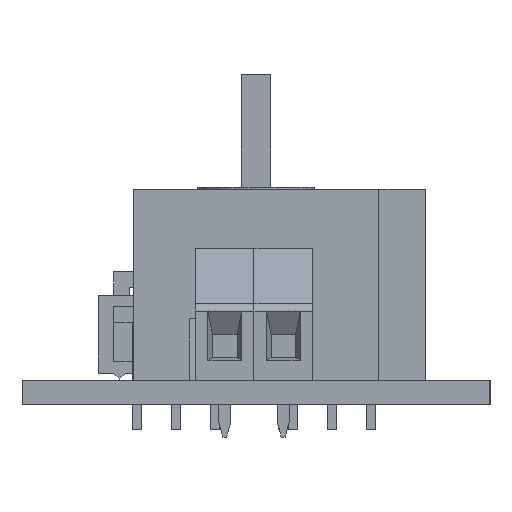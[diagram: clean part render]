
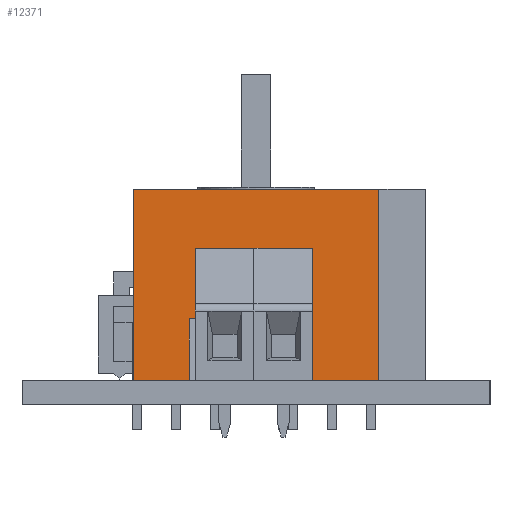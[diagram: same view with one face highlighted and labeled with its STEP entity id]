
A CAD part, left-side view. The second image highlights one B-rep face of the part: STEP entity #12371.
In plain terms, the highlighted planar face has unit normal (-1, 0, 0).
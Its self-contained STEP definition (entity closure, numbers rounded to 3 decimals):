
#12108 = EDGE_CURVE('',#12109,#12111,#12113,.T.);
#12109 = VERTEX_POINT('',#12110);
#12110 = CARTESIAN_POINT('',(-8.001,8.001,0.));
#12111 = VERTEX_POINT('',#12112);
#12112 = CARTESIAN_POINT('',(-8.001,8.001,12.446));
#12113 = SURFACE_CURVE('',#12114,(#12118,#12130),.PCURVE_S1.);
#12114 = LINE('',#12115,#12116);
#12115 = CARTESIAN_POINT('',(-8.001,8.001,0.));
#12116 = VECTOR('',#12117,1.);
#12117 = DIRECTION('',(0.,0.,1.));
#12118 = PCURVE('',#12119,#12124);
#12119 = PLANE('',#12120);
#12120 = AXIS2_PLACEMENT_3D('',#12121,#12122,#12123);
#12121 = CARTESIAN_POINT('',(-8.001,8.001,0.));
#12122 = DIRECTION('',(0.,1.,0.));
#12123 = DIRECTION('',(1.,0.,0.));
#12124 = DEFINITIONAL_REPRESENTATION('',(#12125),#12129);
#12125 = LINE('',#12126,#12127);
#12126 = CARTESIAN_POINT('',(0.,0.));
#12127 = VECTOR('',#12128,1.);
#12128 = DIRECTION('',(0.,-1.));
#12129 = ( GEOMETRIC_REPRESENTATION_CONTEXT(2) 
PARAMETRIC_REPRESENTATION_CONTEXT() REPRESENTATION_CONTEXT('2D SPACE',''
  ) );
#12130 = PCURVE('',#12131,#12136);
#12131 = PLANE('',#12132);
#12132 = AXIS2_PLACEMENT_3D('',#12133,#12134,#12135);
#12133 = CARTESIAN_POINT('',(-8.001,-8.001,0.));
#12134 = DIRECTION('',(-1.,0.,0.));
#12135 = DIRECTION('',(0.,1.,0.));
#12136 = DEFINITIONAL_REPRESENTATION('',(#12137),#12141);
#12137 = LINE('',#12138,#12139);
#12138 = CARTESIAN_POINT('',(16.002,0.));
#12139 = VECTOR('',#12140,1.);
#12140 = DIRECTION('',(0.,-1.));
#12141 = ( GEOMETRIC_REPRESENTATION_CONTEXT(2) 
PARAMETRIC_REPRESENTATION_CONTEXT() REPRESENTATION_CONTEXT('2D SPACE',''
  ) );
#12159 = PLANE('',#12160);
#12160 = AXIS2_PLACEMENT_3D('',#12161,#12162,#12163);
#12161 = CARTESIAN_POINT('',(-8.001,8.001,12.446));
#12162 = DIRECTION('',(0.,0.,1.));
#12163 = DIRECTION('',(1.,0.,0.));
#12213 = PLANE('',#12214);
#12214 = AXIS2_PLACEMENT_3D('',#12215,#12216,#12217);
#12215 = CARTESIAN_POINT('',(-8.001,8.001,0.));
#12216 = DIRECTION('',(0.,0.,1.));
#12217 = DIRECTION('',(1.,0.,0.));
#12268 = PLANE('',#12269);
#12269 = AXIS2_PLACEMENT_3D('',#12270,#12271,#12272);
#12270 = CARTESIAN_POINT('',(8.001,-8.001,0.));
#12271 = DIRECTION('',(0.,-1.,0.));
#12272 = DIRECTION('',(-1.,0.,0.));
#12306 = VERTEX_POINT('',#12307);
#12307 = CARTESIAN_POINT('',(-8.001,-8.001,12.446));
#12328 = EDGE_CURVE('',#12329,#12306,#12331,.T.);
#12329 = VERTEX_POINT('',#12330);
#12330 = CARTESIAN_POINT('',(-8.001,-8.001,0.));
#12331 = SURFACE_CURVE('',#12332,(#12336,#12343),.PCURVE_S1.);
#12332 = LINE('',#12333,#12334);
#12333 = CARTESIAN_POINT('',(-8.001,-8.001,0.));
#12334 = VECTOR('',#12335,1.);
#12335 = DIRECTION('',(0.,0.,1.));
#12336 = PCURVE('',#12268,#12337);
#12337 = DEFINITIONAL_REPRESENTATION('',(#12338),#12342);
#12338 = LINE('',#12339,#12340);
#12339 = CARTESIAN_POINT('',(16.002,0.));
#12340 = VECTOR('',#12341,1.);
#12341 = DIRECTION('',(0.,-1.));
#12342 = ( GEOMETRIC_REPRESENTATION_CONTEXT(2) 
PARAMETRIC_REPRESENTATION_CONTEXT() REPRESENTATION_CONTEXT('2D SPACE',''
  ) );
#12343 = PCURVE('',#12131,#12344);
#12344 = DEFINITIONAL_REPRESENTATION('',(#12345),#12349);
#12345 = LINE('',#12346,#12347);
#12346 = CARTESIAN_POINT('',(0.,0.));
#12347 = VECTOR('',#12348,1.);
#12348 = DIRECTION('',(0.,-1.));
#12349 = ( GEOMETRIC_REPRESENTATION_CONTEXT(2) 
PARAMETRIC_REPRESENTATION_CONTEXT() REPRESENTATION_CONTEXT('2D SPACE',''
  ) );
#12371 = ADVANCED_FACE('',(#12372),#12131,.T.);
#12372 = FACE_BOUND('',#12373,.T.);
#12373 = EDGE_LOOP('',(#12374,#12375,#12396,#12397));
#12374 = ORIENTED_EDGE('',*,*,#12328,.T.);
#12375 = ORIENTED_EDGE('',*,*,#12376,.T.);
#12376 = EDGE_CURVE('',#12306,#12111,#12377,.T.);
#12377 = SURFACE_CURVE('',#12378,(#12382,#12389),.PCURVE_S1.);
#12378 = LINE('',#12379,#12380);
#12379 = CARTESIAN_POINT('',(-8.001,-8.001,12.446));
#12380 = VECTOR('',#12381,1.);
#12381 = DIRECTION('',(0.,1.,0.));
#12382 = PCURVE('',#12131,#12383);
#12383 = DEFINITIONAL_REPRESENTATION('',(#12384),#12388);
#12384 = LINE('',#12385,#12386);
#12385 = CARTESIAN_POINT('',(0.,-12.446));
#12386 = VECTOR('',#12387,1.);
#12387 = DIRECTION('',(1.,0.));
#12388 = ( GEOMETRIC_REPRESENTATION_CONTEXT(2) 
PARAMETRIC_REPRESENTATION_CONTEXT() REPRESENTATION_CONTEXT('2D SPACE',''
  ) );
#12389 = PCURVE('',#12159,#12390);
#12390 = DEFINITIONAL_REPRESENTATION('',(#12391),#12395);
#12391 = LINE('',#12392,#12393);
#12392 = CARTESIAN_POINT('',(0.,-16.002));
#12393 = VECTOR('',#12394,1.);
#12394 = DIRECTION('',(0.,1.));
#12395 = ( GEOMETRIC_REPRESENTATION_CONTEXT(2) 
PARAMETRIC_REPRESENTATION_CONTEXT() REPRESENTATION_CONTEXT('2D SPACE',''
  ) );
#12396 = ORIENTED_EDGE('',*,*,#12108,.F.);
#12397 = ORIENTED_EDGE('',*,*,#12398,.F.);
#12398 = EDGE_CURVE('',#12329,#12109,#12399,.T.);
#12399 = SURFACE_CURVE('',#12400,(#12404,#12411),.PCURVE_S1.);
#12400 = LINE('',#12401,#12402);
#12401 = CARTESIAN_POINT('',(-8.001,-8.001,0.));
#12402 = VECTOR('',#12403,1.);
#12403 = DIRECTION('',(0.,1.,0.));
#12404 = PCURVE('',#12131,#12405);
#12405 = DEFINITIONAL_REPRESENTATION('',(#12406),#12410);
#12406 = LINE('',#12407,#12408);
#12407 = CARTESIAN_POINT('',(0.,0.));
#12408 = VECTOR('',#12409,1.);
#12409 = DIRECTION('',(1.,0.));
#12410 = ( GEOMETRIC_REPRESENTATION_CONTEXT(2) 
PARAMETRIC_REPRESENTATION_CONTEXT() REPRESENTATION_CONTEXT('2D SPACE',''
  ) );
#12411 = PCURVE('',#12213,#12412);
#12412 = DEFINITIONAL_REPRESENTATION('',(#12413),#12417);
#12413 = LINE('',#12414,#12415);
#12414 = CARTESIAN_POINT('',(0.,-16.002));
#12415 = VECTOR('',#12416,1.);
#12416 = DIRECTION('',(0.,1.));
#12417 = ( GEOMETRIC_REPRESENTATION_CONTEXT(2) 
PARAMETRIC_REPRESENTATION_CONTEXT() REPRESENTATION_CONTEXT('2D SPACE',''
  ) );
